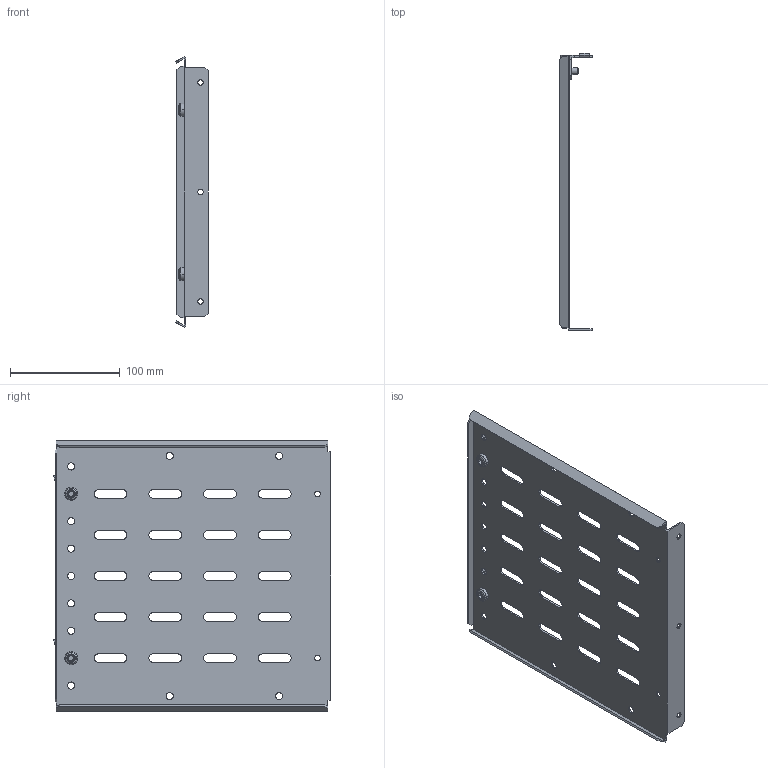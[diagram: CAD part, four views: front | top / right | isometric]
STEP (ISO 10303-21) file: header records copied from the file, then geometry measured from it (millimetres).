
FILE_DESCRIPTION (( 'STEP AP214' ), '1' );
FILE_NAME ('FO-00-SWFB-025 Ïåðåãîðîäêà ñåêöèîíèðîâàíèÿ çàäíÿÿ äëÿ âåðòèêàëüíîãî øèííîãî îòñåêà âûñîòà 250 ìì â øêàô øèðèíîé 600 ìì.STEP', '2025-08-08T11:28:10', ( '' ), ( '' ), 'SwSTEP 2.0', 'SolidWorks 2023', '' );
FILE_SCHEMA (( 'AUTOMOTIVE_DESIGN' ));
Length unit declared in the file: millimetre
Products named in the file (1): FO-00-SWFB-025 Перегородка секционирования задняя для вертикального шинного отсека высота 250 мм в шкаф шириной 600 мм
Bounding box: 30.53 x 253.25 x 247.3 mm (x, y, z)
Volume: 105894.9 mm3; surface area: 141945.2 mm2
Topology: 1 solids, 3 shells, 292 faces, 824 edges, 544 vertices
Faces by surface type: cylinder 142, plane 134, cone 8, torus 8
Entity records: 9707 total; most frequent: DIRECTION 1718, CARTESIAN_POINT 1661, ORIENTED_EDGE 1648, EDGE_CURVE 824, AXIS2_PLACEMENT_3D 601, VERTEX_POINT 544, LINE 516, VECTOR 516
